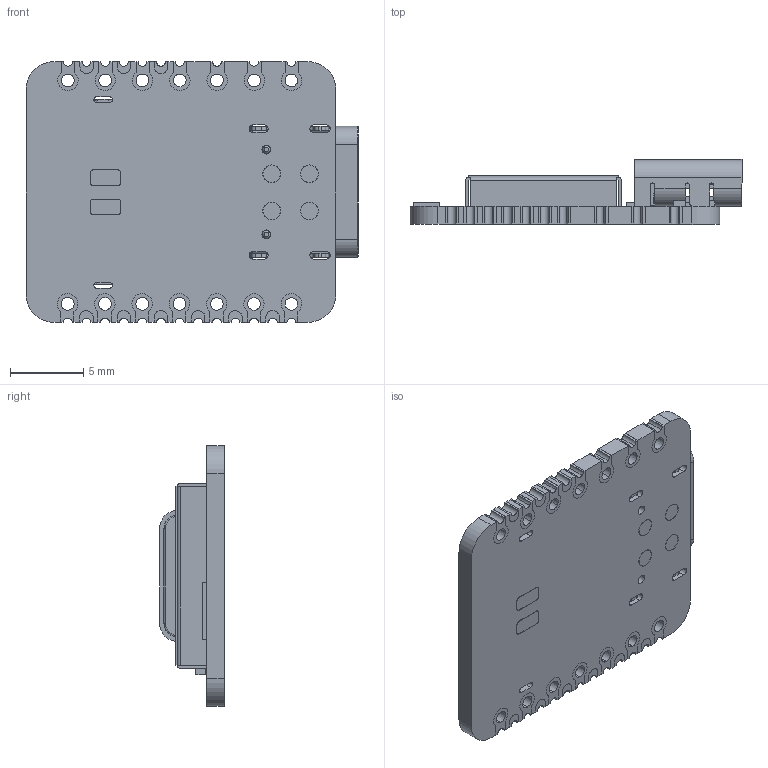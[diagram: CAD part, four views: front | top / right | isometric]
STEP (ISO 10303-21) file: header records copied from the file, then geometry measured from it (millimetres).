
FILE_DESCRIPTION(/* description */ ('','CAx-IF Rec.Pracs.---Representation and Presentation of Product Manufacturing Information (PMI)---4.0---2014-10-13'),/* implementation_level */ '2;1');
FILE_NAME(/* name */ 'XIAO nRF52840 Plus v2.step',/* time_stamp */ '2025-02-17T07:05:57+05:30',/* author */ (''),/* organization */ (''),/* preprocessor_version */ 'ST-DEVELOPER v20',/* originating_system */ 'Autodesk Translation Framework v13.20.0.188',/* authorisation */ '');
FILE_SCHEMA (('AP242_MANAGED_MODEL_BASED_3D_ENGINEERING_MIM_LF { 1 0 10303 442 1 1 4 }'));
Products named in the file (34): XIAO nRF52840  Plus v2 (1); XIAO nRF52840  Plus v2; XIAO ESP32S3 PLUS_V1.0_241025 1; XIAO ESP32S3 PLUS_V1.0_241025_PCB; USB TYPE C PORT; USB TYPE C PORT (1); BOSS-EXTRUDE14_8_; BOSS-EXTRUDE7_4_; BOSS-EXTRUDE7_3_; BOSS-EXTRUDE14_4_; BOSS-EXTRUDE14_2_; BOSS-EXTRUDE14_11_; BOSS-EXTRUDE7_7_; BOSS-EXTRUDE14_9_; BOSS-EXTRUDE14_3_; BOSS-EXTRUDE14_7_; MIRROR2; BOSS-EXTRUDE14_5_; BOSS-EXTRUDE14_12_; BOSS-EXTRUDE7_8_; BOSS-EXTRUDE7_1_; BOSS-EXTRUDE14_10_; BOSS-EXTRUDE7_9_; BOSS-EXTRUDE14_6_; CHAMFER9; BOSS-EXTRUDE14_1_; BOSS-EXTRUDE7_6_; BOSS-EXTRUDE7_2_; CUT-EXTRUDE5; BOSS-EXTRUDE7_5_; Shield; SKTAAAE010 v1; Body; Pins
Assembly tree (33 placements, depth 7):
  XIAO nRF52840  Plus v2 (1)
    XIAO nRF52840  Plus v2
      XIAO ESP32S3 PLUS_V1.0_241025 1
        XIAO ESP32S3 PLUS_V1.0_241025_PCB
          USB TYPE C PORT
            USB TYPE C PORT (1)
              BOSS-EXTRUDE14_8_
              BOSS-EXTRUDE7_4_
              BOSS-EXTRUDE7_3_
              BOSS-EXTRUDE14_4_
              BOSS-EXTRUDE14_2_
              BOSS-EXTRUDE14_11_
              BOSS-EXTRUDE7_7_
              BOSS-EXTRUDE14_9_
              BOSS-EXTRUDE14_3_
              BOSS-EXTRUDE14_7_
              MIRROR2
              BOSS-EXTRUDE14_5_
              BOSS-EXTRUDE14_12_
              BOSS-EXTRUDE7_8_
              BOSS-EXTRUDE7_1_
              BOSS-EXTRUDE14_10_
              BOSS-EXTRUDE7_9_
              BOSS-EXTRUDE14_6_
              CHAMFER9
              BOSS-EXTRUDE14_1_
              BOSS-EXTRUDE7_6_
              BOSS-EXTRUDE7_2_
              CUT-EXTRUDE5
              BOSS-EXTRUDE7_5_
          Shield
          SKTAAAE010 v1
            Body
            Pins
Bounding box: 22.64 x 4.42 x 17.78 mm (x, y, z)
Volume: 602.7 mm3; surface area: 2428.9 mm2
Topology: 64 solids, 64 shells, 1778 faces, 4733 edges, 3122 vertices
Faces by surface type: plane 1135, bspline 350, cylinder 269, torus 12, cone 6, sphere 6
Full cylindrical faces by diameter (mm): 0.5 x2, 0.6 x2, 0.85 x1, 1.2 x8
Entity records: 56912 total; most frequent: CARTESIAN_POINT 13796, ORIENTED_EDGE 9450, DIRECTION 7573, EDGE_CURVE 4725, LINE 3467, VECTOR 3467, VERTEX_POINT 3122, AXIS2_PLACEMENT_3D 2053
